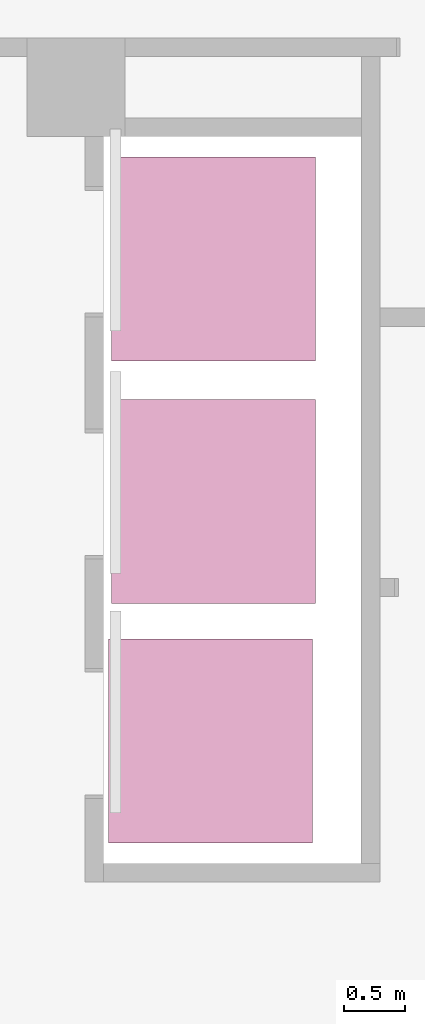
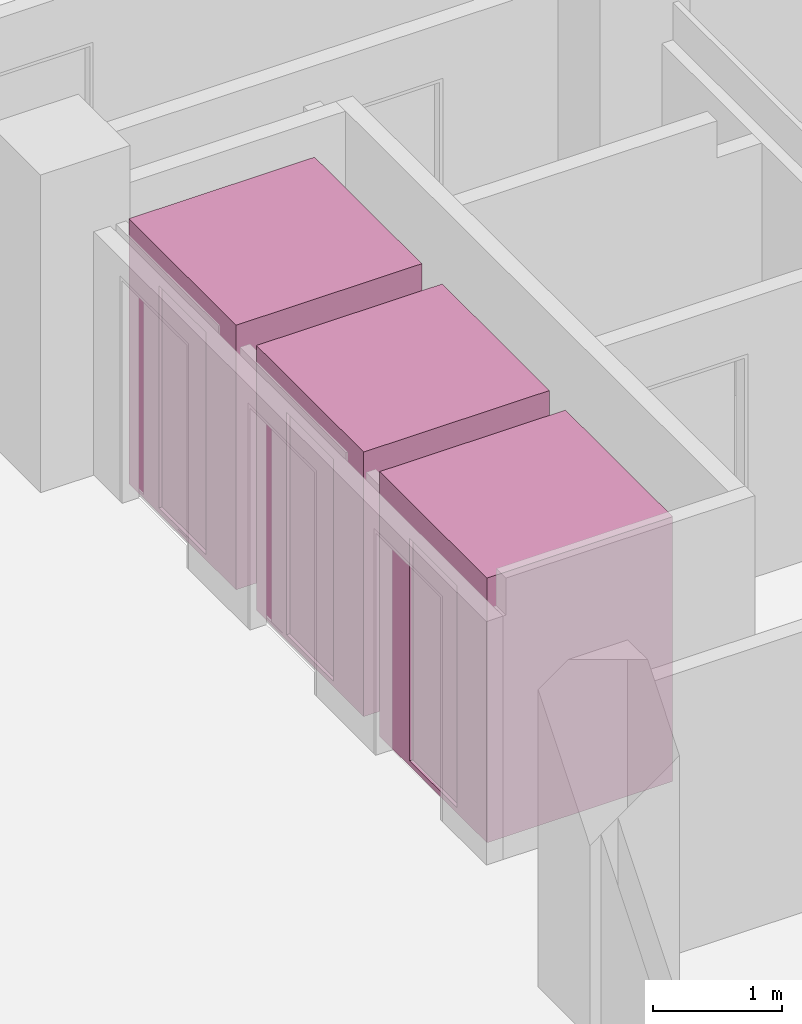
# One storey, part 9 of 9: 3 transport elements.
"""IFC2X3 building model written with IfcOpenShell, lengths in millimetres."""

from ifc_helpers import new_model, entity, si_unit, converted_unit, derived_unit, money_unit, direction, frame, origin_with_axes, place, context, subcontext, project, spatial, faceted_brep, source, transform, mapped, type_object, element, save


model = new_model("IFC2X3")

# Units and contexts
model_context = context("Model", 3, precision=0.01, world=origin_with_axes(), true_north=direction((0.0, 1.0)))
body_context = subcontext(model_context, "Body", "Model", "MODEL_VIEW")
ifc_project = project(units=[si_unit("LENGTHUNIT", "METRE", prefix="MILLI"), si_unit("AREAUNIT", "SQUARE_METRE"), si_unit("VOLUMEUNIT", "CUBIC_METRE"), converted_unit("PLANEANGLEUNIT", "DEGREE", entity("IfcPlaneAngleMeasure", 0.0174532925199), si_unit("PLANEANGLEUNIT", "RADIAN"), dimensions=[0, 0, 0, 0, 0, 0, 0]), si_unit("SOLIDANGLEUNIT", "STERADIAN"), money_unit("JPY"), converted_unit("TIMEUNIT", "Year", entity("IfcTimeMeasure", 31556926.0), si_unit("TIMEUNIT", "SECOND"), dimensions=[0, 0, 1, 0, 0, 0, 0]), si_unit("MASSUNIT", "GRAM", prefix="KILO"), si_unit("THERMODYNAMICTEMPERATUREUNIT", "DEGREE_CELSIUS"), si_unit("LUMINOUSINTENSITYUNIT", "LUMEN"), si_unit("ENERGYUNIT", "JOULE", prefix="MEGA"), derived_unit("THERMALCONDUCTANCEUNIT", [(si_unit("POWERUNIT", "WATT"), 1), (si_unit("LENGTHUNIT", "METRE"), -1), (si_unit("THERMODYNAMICTEMPERATUREUNIT", "KELVIN"), -1)]), derived_unit("SPECIFICHEATCAPACITYUNIT", [(si_unit("ENERGYUNIT", "JOULE"), 1), (si_unit("MASSUNIT", "GRAM", prefix="KILO"), -1), (si_unit("THERMODYNAMICTEMPERATUREUNIT", "KELVIN"), -1)]), derived_unit("MASSDENSITYUNIT", [(si_unit("MASSUNIT", "GRAM", prefix="KILO"), 1), (si_unit("VOLUMEUNIT", "CUBIC_METRE"), -1)])], contexts=[model_context])

# Site, building, storey
site_placement = place(None, origin_with_axes())
site = spatial("IfcSite", under=ifc_project, at=site_placement, Name="サイト", CompositionType="ELEMENT")
building_placement = place(site_placement, origin_with_axes())
building = spatial("IfcBuilding", under=site, at=building_placement, Name="建築", CompositionType="ELEMENT")
storey_placement = place(building_placement, origin_with_axes())
storey = spatial("IfcBuildingStorey", under=building, at=storey_placement, Name="1FL", CompositionType="ELEMENT", Elevation=0.0)

# Transport elements
transport_element_type = type_object("IfcTransportElementType", Name="エレベーター", PredefinedType="NOTDEFINED")
shared_shape = source(origin_with_axes(), body_context, "Body", "Brep", [
    faceted_brep([(1150.0, 250.0, 0.0), (785.0, 250.0, 0.0), (785.0, 250.0, 2100.0), (1150.0, 250.0, 2100.0), (1150.0, 220.0, 0.0), (785.0, 220.0, 0.0), (785.0, 220.0, 2100.0), (1150.0, 220.0, 2100.0)], [[[0, 1, 2, 3]], [[1, 0, 4, 5]], [[2, 1, 5, 6]], [[3, 2, 6, 7]], [[0, 3, 7, 4]], [[5, 4, 7, 6]]]),
    faceted_brep([(1515.0, 250.0, 0.0), (1150.0, 250.0, 0.0), (1150.0, 250.0, 2100.0), (1515.0, 250.0, 2100.0), (1515.0, 220.0, 0.0), (1150.0, 220.0, 0.0), (1150.0, 220.0, 2100.0), (1515.0, 220.0, 2100.0)], [[[0, 1, 2, 3]], [[1, 0, 4, 5]], [[2, 1, 5, 6]], [[3, 2, 6, 7]], [[0, 3, 7, 4]], [[5, 4, 7, 6]]]),
    faceted_brep([(1515.0, 270.0, 0.0), (1900.0, 270.0, 0.0), (1900.0, 1770.0, 0.0), (400.0, 1770.0, 0.0), (400.0, 270.0, 0.0), (785.0, 270.0, 0.0), (785.0, 190.0, 0.0), (320.0, 190.0, 0.0), (320.0, 1850.0, 0.0), (1980.0, 1850.0, 0.0), (1980.0, 190.0, 0.0), (1515.0, 190.0, 0.0), (400.0, 270.0, 2400.0), (1900.0, 270.0, 2400.0), (1515.0, 270.0, 2100.0), (785.0, 270.0, 2100.0), (1900.0, 1770.0, 2400.0), (400.0, 1770.0, 2400.0), (785.0, 190.0, 2100.0), (1515.0, 190.0, 2100.0), (1980.0, 190.0, 2400.0), (320.0, 190.0, 2400.0), (320.0, 1850.0, 2400.0), (1980.0, 1850.0, 2400.0)], [[[0, 1, 2, 3, 4, 5, 6, 7, 8, 9, 10, 11]], [[12, 13, 1, 0, 14, 15, 5, 4]], [[13, 16, 2, 1]], [[16, 17, 3, 2]], [[17, 12, 4, 3]], [[5, 15, 18, 6]], [[7, 6, 18, 19, 11, 10, 20, 21]], [[21, 22, 8, 7]], [[22, 23, 9, 8]], [[23, 20, 10, 9]], [[14, 0, 11, 19]], [[23, 22, 21, 20], [12, 17, 16, 13]], [[15, 14, 19, 18]]]),
    faceted_brep([(320.0, 190.0, -50.0), (1980.0, 190.0, -50.0), (1980.0, 190.0, 0.0), (320.0, 190.0, 0.0), (320.0, 1850.0, -50.0), (1980.0, 1850.0, -50.0), (1980.0, 1850.0, 0.0), (320.0, 1850.0, 0.0)], [[[0, 1, 2, 3]], [[0, 4, 5, 1]], [[1, 5, 6, 2]], [[3, 2, 6, 7]], [[4, 0, 3, 7]], [[5, 4, 7, 6]]]),
    faceted_brep([(320.0, 190.0, 2400.0), (1980.0, 190.0, 2400.0), (1980.0, 190.0, 2450.0), (320.0, 190.0, 2450.0), (320.0, 1850.0, 2400.0), (1980.0, 1850.0, 2400.0), (1980.0, 1850.0, 2450.0), (320.0, 1850.0, 2450.0)], [[[0, 1, 2, 3]], [[0, 4, 5, 1]], [[1, 5, 6, 2]], [[3, 2, 6, 7]], [[4, 0, 3, 7]], [[5, 4, 7, 6]]]),
    faceted_brep([(1900.0, 370.0, 1000.0), (1900.0, 470.0, 1000.0), (1900.0, 470.0, 1075.0), (1900.0, 370.0, 1075.0), (1890.0, 370.0, 1000.0), (1890.0, 470.0, 1000.0), (1890.0, 470.0, 1075.0), (1890.0, 370.0, 1075.0)], [[[0, 1, 2, 3]], [[1, 0, 4, 5]], [[2, 1, 5, 6]], [[3, 2, 6, 7]], [[0, 3, 7, 4]], [[5, 4, 7, 6]]]),
    faceted_brep([(1890.0, 450.428932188, 1005.42893219), (1890.0, 450.428932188, 1019.57106781), (1885.0, 451.843145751, 1018.15685425), (1885.0, 451.843145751, 1006.84314575), (1890.0, 464.571067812, 1005.42893219), (1890.0, 464.571067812, 1019.57106781), (1885.0, 463.156854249, 1018.15685425), (1885.0, 463.156854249, 1006.84314575)], [[[0, 1, 2, 3]], [[0, 4, 5, 1]], [[1, 5, 6, 2]], [[3, 2, 6, 7]], [[4, 0, 3, 7]], [[5, 4, 7, 6]]]),
    faceted_brep([(1890.0, 425.428932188, 1005.42893219), (1890.0, 425.428932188, 1019.57106781), (1885.0, 426.843145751, 1018.15685425), (1885.0, 426.843145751, 1006.84314575), (1890.0, 439.571067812, 1005.42893219), (1890.0, 439.571067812, 1019.57106781), (1885.0, 438.156854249, 1018.15685425), (1885.0, 438.156854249, 1006.84314575)], [[[0, 1, 2, 3]], [[0, 4, 5, 1]], [[1, 5, 6, 2]], [[3, 2, 6, 7]], [[4, 0, 3, 7]], [[5, 4, 7, 6]]]),
    faceted_brep([(1890.0, 400.428932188, 1005.42893219), (1890.0, 400.428932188, 1019.57106781), (1885.0, 401.843145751, 1018.15685425), (1885.0, 401.843145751, 1006.84314575), (1890.0, 414.571067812, 1005.42893219), (1890.0, 414.571067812, 1019.57106781), (1885.0, 413.156854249, 1018.15685425), (1885.0, 413.156854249, 1006.84314575)], [[[0, 1, 2, 3]], [[0, 4, 5, 1]], [[1, 5, 6, 2]], [[3, 2, 6, 7]], [[4, 0, 3, 7]], [[5, 4, 7, 6]]]),
    faceted_brep([(1890.0, 375.428932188, 1005.42893219), (1890.0, 375.428932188, 1019.57106781), (1885.0, 376.843145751, 1018.15685425), (1885.0, 376.843145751, 1006.84314575), (1890.0, 389.571067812, 1005.42893219), (1890.0, 389.571067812, 1019.57106781), (1885.0, 388.156854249, 1018.15685425), (1885.0, 388.156854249, 1006.84314575)], [[[0, 1, 2, 3]], [[0, 4, 5, 1]], [[1, 5, 6, 2]], [[3, 2, 6, 7]], [[4, 0, 3, 7]], [[5, 4, 7, 6]]]),
    faceted_brep([(1890.0, 450.428932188, 1055.42893219), (1890.0, 450.428932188, 1069.57106781), (1885.0, 451.843145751, 1068.15685425), (1885.0, 451.843145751, 1056.84314575), (1890.0, 464.571067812, 1055.42893219), (1890.0, 464.571067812, 1069.57106781), (1885.0, 463.156854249, 1068.15685425), (1885.0, 463.156854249, 1056.84314575)], [[[0, 1, 2, 3]], [[0, 4, 5, 1]], [[1, 5, 6, 2]], [[3, 2, 6, 7]], [[4, 0, 3, 7]], [[5, 4, 7, 6]]]),
])
for number, where, z_axis, x_axis, name in (
    (1, (20075.0, 4325.0, 0.0), (0.0, 0.0, 1.0), (0.0, -1.0, 0.0), "O1"),
    (2, (20100.0, 8250.0, 0.0), (0.0, 0.0, 1.0), (0.0, -1.0, 0.0), "O1"),
    (3, (20100.0, 6274.97613952, 0.0), (0.0, 0.0, 1.0), (0.0, -1.0, 0.0), "O1"),
):
    element("IfcTransportElement", number, at=place(storey_placement, frame(where, z_axis=z_axis, x_axis=x_axis)), inside=storey, type_object=transport_element_type, Name=name, context=body_context, shape_type="MappedRepresentation", body=[
        mapped(shared_shape, transform((0.0, 0.0, 0.0))),
    ])

save(model, "model.ifc")
